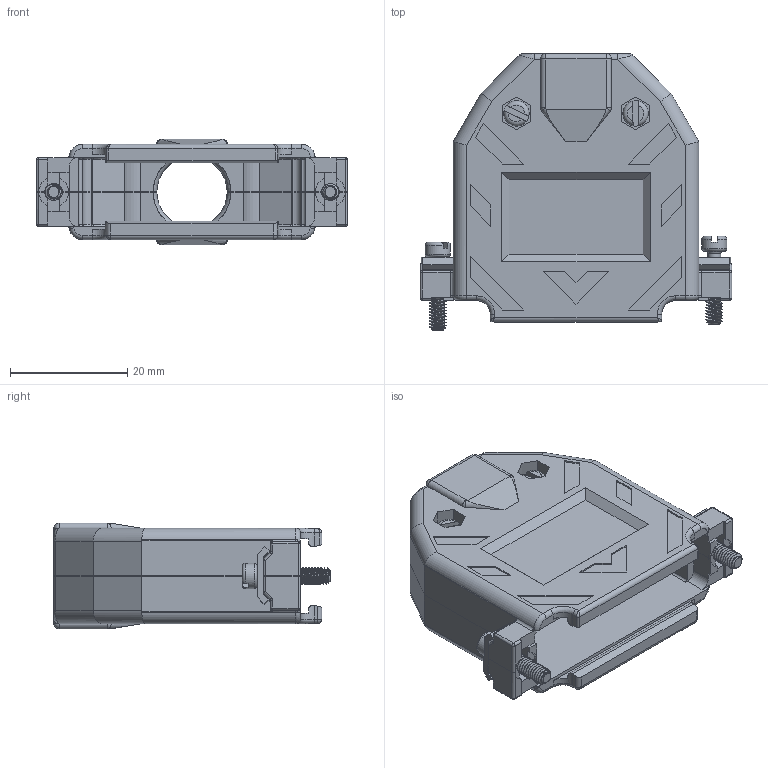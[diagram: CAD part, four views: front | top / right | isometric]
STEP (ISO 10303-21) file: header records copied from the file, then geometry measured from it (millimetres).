
FILE_DESCRIPTION((''),'2;1');
FILE_NAME('D:\_NTC CAD MODELS & ASSEMBLIES - STEP\STEP FILES\covers - ntc\cpp str series -\cpp_str_25 -\cpp_str_25_assy.stp','2016-04-29T11:09:33',('j_dipietro'),(''),'Autodesk Inventor 2012','Autodesk Inventor 2012','');
FILE_SCHEMA(('CONFIG_CONTROL_DESIGN'));
Length unit declared in the file: inch
Products named in the file (7): cpp_str_25_assy; cpp_str_25_bot; cpp_str_25_top; b71014144; b72114064; b71314144; b73190004
Assembly tree (10 placements, depth 2):
  cpp_str_25_assy
    cpp_str_25_bot
    cpp_str_25_top
    b71014144  x2
    b72114064  x2
    b71314144  x2
    b73190004  x2
Bounding box: 53.09 x 47.12 x 18.03 mm (x, y, z)
Volume: 11993.5 mm3; surface area: 13387.6 mm2
Topology: 10 solids, 10 shells, 700 faces, 1801 edges, 1148 vertices
Faces by surface type: plane 398, cylinder 194, torus 59, bspline 23, sphere 22, cone 4
Full cylindrical faces by diameter (mm): 2.159 x2, 2.972 x2, 3.048 x4, 4.318 x4
Entity records: 23259 total; most frequent: CARTESIAN_POINT 7549, DIRECTION 3225, ORIENTED_EDGE 3210, EDGE_CURVE 1605, VECTOR 1095, LINE 1095, AXIS2_PLACEMENT_3D 1065, VERTEX_POINT 1028
